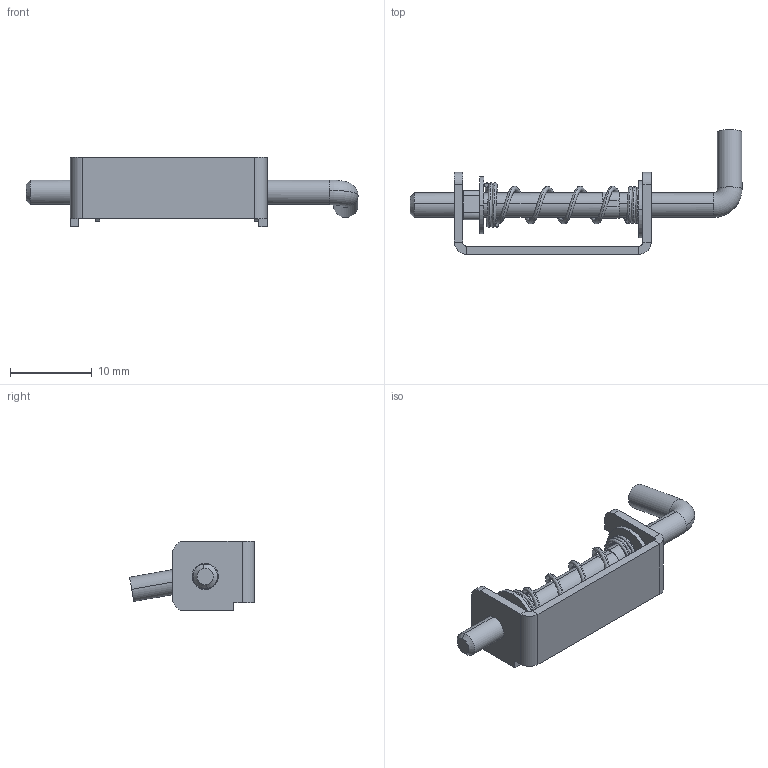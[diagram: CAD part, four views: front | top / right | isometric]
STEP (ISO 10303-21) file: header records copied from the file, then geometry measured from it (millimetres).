
FILE_DESCRIPTION (( 'STEP AP214' ), '1' );
FILE_NAME ('3.ST60.001.STEP', '2010-04-20T18:19:39', ( 'Techniczny' ), ( 'RST ROZTOCZE' ), 'SwSTEP 2.0', 'SolidWorks 2010', '' );
FILE_SCHEMA (( 'AUTOMOTIVE_DESIGN' ));
Length unit declared in the file: millimetre
Products named in the file (5): 3.St60.001.02_Default; 3.St60.001.03_Default; Podk³adka_Default; Sprê¿ynka; 3.ST60.001
Assembly tree (5 placements, depth 2):
  3.ST60.001
    Podk³adka_Default  x2
    3.St60.001.02_Default
    3.St60.001.03_Default
    Sprê¿ynka
Bounding box: 40.5 x 15.22 x 8.5 mm (x, y, z)
Volume: 685.5 mm3; surface area: 1554.9 mm2
Topology: 6 solids, 6 shells, 102 faces, 239 edges, 147 vertices
Faces by surface type: plane 54, cylinder 34, bspline 10, cone 2, torus 2
Entity records: 5316 total; most frequent: CARTESIAN_POINT 2872, DIRECTION 515, ORIENTED_EDGE 454, EDGE_CURVE 227, AXIS2_PLACEMENT_3D 209, VERTEX_POINT 139, CIRCLE 115, EDGE_LOOP 100
